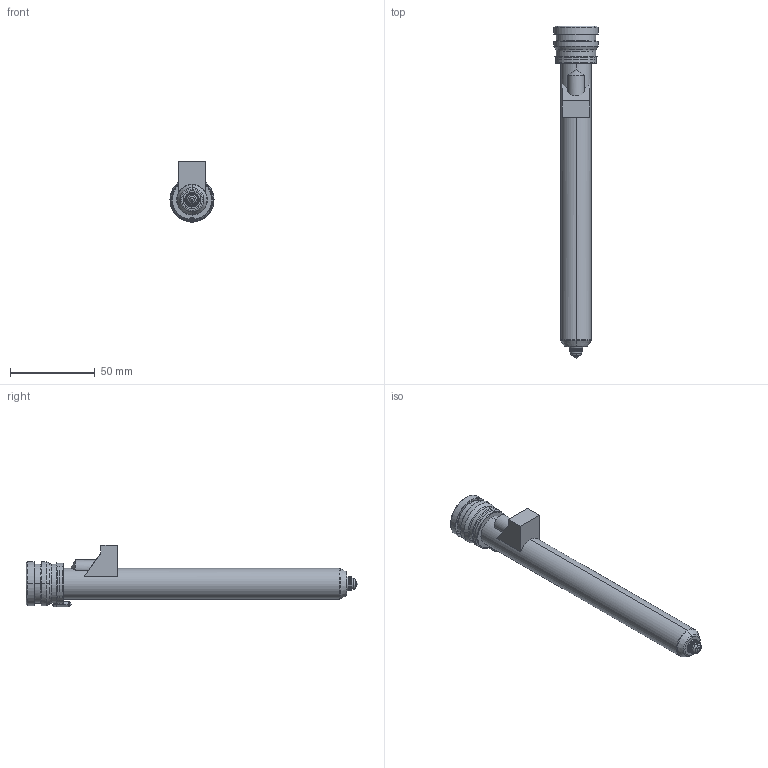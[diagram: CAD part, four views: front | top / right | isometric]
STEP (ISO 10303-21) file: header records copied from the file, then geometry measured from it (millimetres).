
FILE_DESCRIPTION((''),'2;1');
FILE_NAME('TH18177_5-M-1B15-PK-JG','2023-12-14T',('umhib'),('Thermoplay S.p.A.'),'PRO/ENGINEER BY PARAMETRIC TECHNOLOGY CORPORATION, 2017170','PRO/ENGINEER BY PARAMETRIC TECHNOLOGY CORPORATION, 2017170','');
FILE_SCHEMA(('CONFIG_CONTROL_DESIGN'));
Length unit declared in the file: millimetre
Products named in the file (1): TH18177_5-M-1B15-PK-JG
Bounding box: 26 x 195.5 x 36.1 mm (x, y, z)
Volume: 38719 mm3; surface area: 29143.5 mm2
Topology: 1 solids, 2 shells, 393 faces, 1003 edges, 615 vertices
Faces by surface type: cylinder 149, plane 87, cone 64, torus 58, bspline 22, sphere 11, extrusion 2
Entity records: 16871 total; most frequent: CARTESIAN_POINT 5188, DIRECTION 2010, ORIENTED_EDGE 1980, EDGE_CURVE 992, AXIS2_PLACEMENT_3D 810, VERTEX_POINT 615, CIRCLE 440, EDGE_LOOP 416
